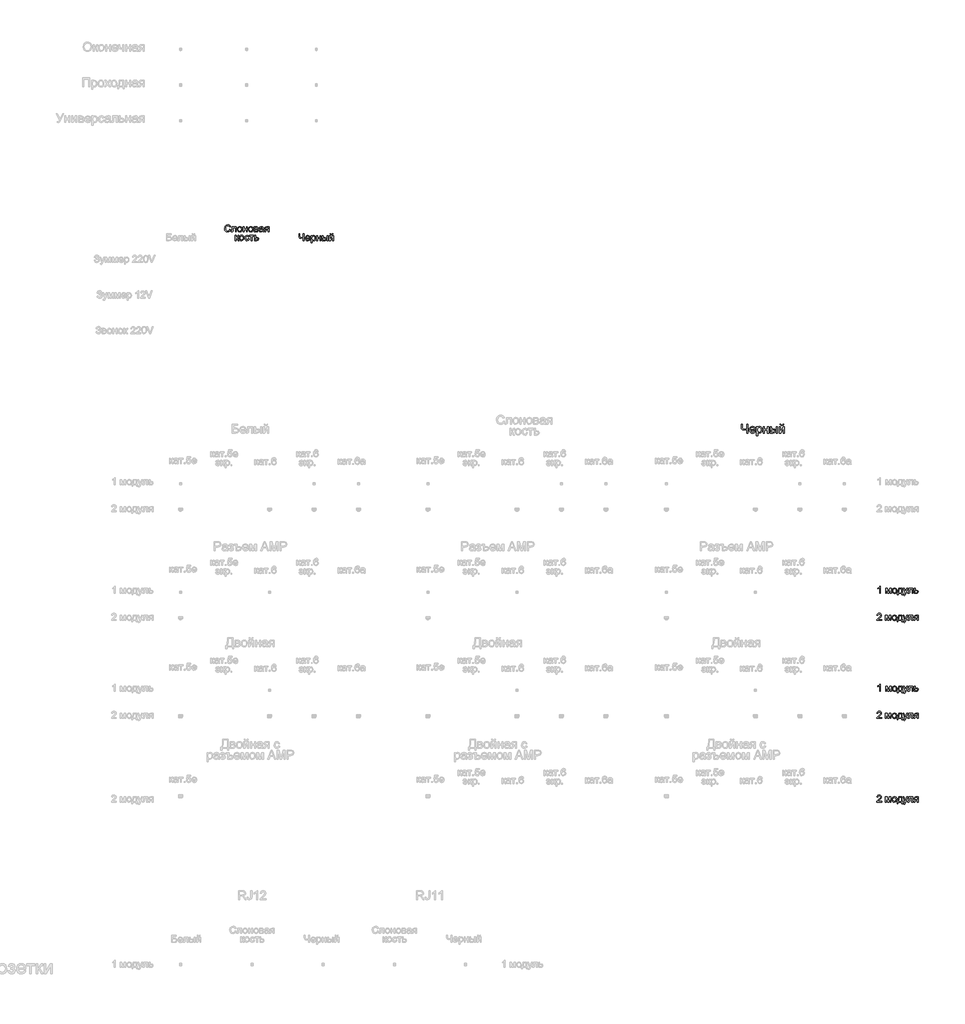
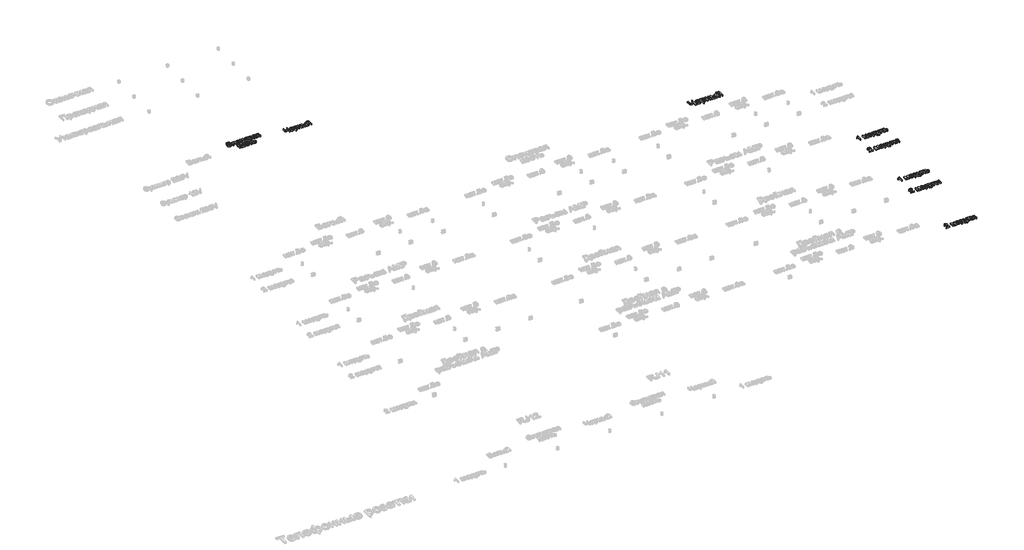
# One storey, part 34 of 47: 8 proxies.
"""IFC4 building model written with IfcOpenShell, lengths in millimetres."""

from ifc_helpers import new_model, si_unit, origin, origin_with_axes, place, context, project, spatial, polyline, outline, extrude, element, save

model = new_model("IFC4")

# Units and contexts
model_context = context("Model", 3, world=origin())
ifc_project = project(units=[si_unit("LENGTHUNIT", "METRE", prefix="MILLI")], contexts=[model_context])

# Site, building, storey
site = spatial("IfcSite", under=ifc_project)
building = spatial("IfcBuilding", under=site)
storey = spatial("IfcBuildingStorey", under=building, Name="Этаж 01", Elevation=0.0)

# Proxies
placement = place(None, origin())
element("IfcBuildingElementProxy", 1, Name="80 мм Arial", ObjectType="80 мм Arial", at=placement, inside=storey, context=model_context, shape_type="SweptSolid", body=[
    extrude(outline(polyline([(559.9006513, -17462.335375), (569.9462823, -17464.9252643), (565.3109692, -17476.6312694), (558.0367159, -17485.1832995), (548.4815942, -17490.4145814), (537.0036759, -17492.1583421), (516.0981684, -17486.8804617), (503.8354352, -17471.5961911), (499.6268652, -17450.1118826), (504.3848057, -17428.2744074), (517.9130529, -17414.1183082), (537.2195, -17409.2818862), (548.233887, -17410.846611), (557.3401926, -17415.5407852), (564.2539216, -17423.0750085), (568.6905784, -17433.1598803), (558.6449474, -17435.5535658), (550.4043907, -17423.2025409), (536.8270926, -17419.3275172), (521.1111737, -17423.6243789), (512.2329549, -17435.1611583), (509.6724962, -17450.0922622), (512.7038439, -17467.3974313), (522.1412433, -17478.4535115), (536.0030369, -17482.1127111), (551.3755992, -17477.1291363), (559.9006513, -17462.335375)])), origin_with_axes(), (0.0, 0.0, 1.0), 20.0),
    extrude(outline(polyline([(587.5261366, -17431.884556), (632.7314762, -17431.884556), (632.7314762, -17490.8437771), (622.6858451, -17490.8437771), (622.6858451, -17441.930187), (597.5717676, -17441.930187), (597.5717676, -17470.0854224), (596.8948647, -17483.0741094), (593.176804, -17488.5580036), (584.3868769, -17490.9026382), (576.2248017, -17490.3925085), (576.2248017, -17480.8570072), (580.7178671, -17480.8570072), (585.2599835, -17480.2389655), (587.074868, -17478.2769281), (587.5261366, -17469.5164316), (587.5261366, -17431.884556)])), origin_with_axes(), (0.0, 0.0, 1.0), 20.0),
    extrude(outline(polyline([(645.2885149, -17461.3935971), (647.4614713, -17447.1639215), (653.9803402, -17437.1624364), (662.0345034, -17432.2622482), (671.6779167, -17430.6288521), (682.2312249, -17432.6178674), (690.6606277, -17438.5849134), (696.1862152, -17448.0591011), (698.0280778, -17460.5695414), (694.7710958, -17478.4437013), (685.2846454, -17488.5580036), (671.6779167, -17492.1583421), (660.9970761, -17490.1766844), (652.5774835, -17484.2317114), (647.1107571, -17474.5588674), (645.2885149, -17461.3935971)]), holes=[polyline([(655.3341459, -17461.3739767), (659.9841744, -17476.9427428), (671.6779167, -17482.1127111), (683.3324183, -17476.9133122), (687.9824467, -17461.0600508), (683.3029878, -17445.8444514), (671.6779167, -17440.6744831), (659.9841744, -17445.8248311), (655.3341459, -17461.3739767)])]), origin_with_axes(), (0.0, 0.0, 1.0), 20.0),
    extrude(outline(polyline([(709.3294127, -17431.884556), (719.3750437, -17431.884556), (719.3750437, -17454.4872258), (745.7448251, -17454.4872258), (745.7448251, -17431.884556), (755.7904561, -17431.884556), (755.7904561, -17490.9026382), (745.7448251, -17490.9026382), (745.7448251, -17464.5328568), (719.3750437, -17464.5328568), (719.3750437, -17490.9026382), (709.3294127, -17490.9026382), (709.3294127, -17431.884556)])), origin_with_axes(), (0.0, 0.0, 1.0), 20.0),
    extrude(outline(polyline([(768.3474949, -17461.3935971), (770.5204512, -17447.1639215), (777.0393201, -17437.1624364), (785.0934833, -17432.2622482), (794.7368967, -17430.6288521), (805.2902048, -17432.6178674), (813.7196076, -17438.5849134), (819.2451952, -17448.0591011), (821.0870577, -17460.5695414), (817.8300758, -17478.4437013), (808.3436254, -17488.5580036), (794.7368967, -17492.1583421), (784.0560561, -17490.1766844), (775.6364635, -17484.2317114), (770.169737, -17474.5588674), (768.3474949, -17461.3935971)]), holes=[polyline([(778.3931259, -17461.3739767), (783.0431543, -17476.9427428), (794.7368967, -17482.1127111), (806.3913983, -17476.9133122), (811.0414267, -17461.0600508), (806.3619677, -17445.8444514), (794.7368967, -17440.6744831), (783.0431543, -17445.8248311), (778.3931259, -17461.3739767)])]), origin_with_axes(), (0.0, 0.0, 1.0), 20.0),
    extrude(outline(polyline([(832.3883926, -17431.884556), (854.5201734, -17431.884556), (866.6553742, -17433.2285516), (873.483264, -17438.1532652), (876.3380283, -17446.7371784), (874.6114354, -17453.7122211), (869.4120366, -17458.6859856), (876.1614449, -17464.1306392), (878.849436, -17473.5974692), (873.1006667, -17486.6450173), (857.914498, -17490.9026382), (832.3883926, -17490.9026382), (832.3883926, -17431.884556)]), holes=[polyline([(842.4340236, -17480.8570072), (854.7556179, -17480.8570072), (865.6841657, -17479.0421227), (868.803805, -17472.7734135), (867.0870224, -17467.9369915), (862.6135773, -17465.121468), (853.7745992, -17464.5328568), (842.4340236, -17464.5328568), (842.4340236, -17480.8570072)]), polyline([(842.4340236, -17454.4872258), (852.3619324, -17454.4872258), (860.5534381, -17453.9770961), (864.5363739, -17451.9365773), (866.2923973, -17448.2479471), (863.2119987, -17443.3232335), (852.6758583, -17441.930187), (842.4340236, -17441.930187), (842.4340236, -17454.4872258)])]), origin_with_axes(), (0.0, 0.0, 1.0), 20.0),
    extrude(outline(polyline([(929.0775911, -17483.368415), (919.3360759, -17490.1766844), (908.5743012, -17492.1583421), (893.9865539, -17487.3905914), (888.895067, -17475.2063398), (890.8178636, -17467.2600887), (895.8701097, -17461.491699), (902.9040134, -17458.1954763), (911.5958387, -17456.6847076), (929.01873, -17453.2315219), (929.0775911, -17450.9947994), (926.3111185, -17443.5782984), (915.2059873, -17440.6744831), (905.0426341, -17442.6070899), (900.1964019, -17449.4644103), (890.1507709, -17448.2087064), (894.4966836, -17438.3985199), (903.24737, -17432.6497506), (916.500932, -17430.6288521), (928.6753735, -17432.4143061), (935.5523142, -17436.8975613), (938.6327128, -17443.715641), (939.1232221, -17452.5055681), (939.1232221, -17465.0037458), (939.6333518, -17482.4560676), (941.6346299, -17490.9026382), (931.5889989, -17490.9026382), (929.0775911, -17483.368415)]), holes=[polyline([(929.0775911, -17463.2771529), (912.8711629, -17466.3575515), (904.2283886, -17467.9860425), (900.3141242, -17470.6347928), (898.9406981, -17474.5000063), (901.932805, -17479.9348497), (910.7129219, -17482.1127111), (920.8762752, -17479.7092154), (927.4294798, -17473.8917748), (929.01873, -17466.122107), (929.0775911, -17463.2771529)])]), origin_with_axes(), (0.0, 0.0, 1.0), 20.0),
    extrude(outline(polyline([(998.1413043, -17431.884556), (998.1413043, -17490.9026382), (988.0956733, -17490.9026382), (988.0956733, -17468.2999684), (982.6215892, -17468.2999684), (975.1658475, -17469.5752927), (968.1613743, -17478.1493957), (960.1562621, -17490.9026382), (948.5410012, -17490.9026382), (958.625873, -17474.7746915), (967.1803556, -17466.4164126), (955.4866133, -17460.3144766), (951.6802609, -17448.9346602), (956.8796598, -17436.6130659), (971.9284859, -17431.884556), (998.1413043, -17431.884556)]), holes=[polyline([(988.0956733, -17441.930187), (974.8519215, -17441.930187), (964.1293876, -17444.2552012), (961.7258919, -17449.6998548), (965.2673692, -17456.1843881), (977.8145978, -17458.2543374), (988.0956733, -17458.2543374), (988.0956733, -17441.930187)])]), origin_with_axes(), (0.0, 0.0, 1.0), 20.0),
    extrude(outline(polyline([(619.5465855, -17529.4644103), (629.5922165, -17529.4644103), (629.5922165, -17554.5784878), (636.3220044, -17552.7734135), (641.8353293, -17542.2568935), (646.4166864, -17533.182471), (650.4584832, -17530.2296048), (657.806313, -17529.4644103), (659.7291095, -17529.4644103), (659.7291095, -17539.5689024), (657.021498, -17539.5100413), (652.1164048, -17540.5695414), (648.6632191, -17547.1816072), (644.6116121, -17554.3332332), (638.9315141, -17557.8354697), (645.2688946, -17561.7448291), (651.4885528, -17569.9804807), (662.2405173, -17588.4824925), (650.8214601, -17588.4824925), (640.2853198, -17570.3728881), (634.9878191, -17562.7111325), (629.5922165, -17560.8570072), (629.5922165, -17588.4824925), (619.5465855, -17588.4824925), (619.5465855, -17529.4644103)])), origin_with_axes(), (0.0, 0.0, 1.0), 20.0),
    extrude(outline(polyline([(666.0076289, -17558.9734514), (668.1805852, -17544.7437758), (674.6994542, -17534.7422906), (682.7536173, -17529.8421025), (692.3970307, -17528.2087064), (702.9503389, -17530.1977217), (711.3797416, -17536.1647677), (716.9053292, -17545.6389553), (718.7471917, -17558.1493957), (715.4902098, -17576.0235556), (706.0037594, -17586.1378579), (692.3970307, -17589.7381964), (681.7161901, -17587.7565387), (673.2965975, -17581.8115656), (667.8298711, -17572.1387217), (666.0076289, -17558.9734514)]), holes=[polyline([(676.0532599, -17558.953831), (680.7032883, -17574.522597), (692.3970307, -17579.6925654), (704.0515323, -17574.4931665), (708.7015607, -17558.639905), (704.0221017, -17543.4243057), (692.3970307, -17538.2543374), (680.7032883, -17543.4046854), (676.0532599, -17558.953831)])]), origin_with_axes(), (0.0, 0.0, 1.0), 20.0),
    extrude(outline(polyline([(767.7196429, -17567.1355266), (777.7652739, -17568.3912305), (774.9644657, -17577.3258579), (769.7013006, -17584.0777187), (753.7695577, -17589.7381964), (743.083812, -17587.7638963), (734.7279856, -17581.8409962), (729.3348356, -17572.2294659), (727.5371189, -17559.1892755), (730.6077073, -17542.5021482), (739.9666252, -17531.7796143), (753.6322151, -17528.2087064), (768.9066755, -17533.1137997), (776.5095701, -17547.0442646), (766.4639391, -17548.2999684), (761.8041004, -17540.7755554), (753.7106966, -17538.2543374), (742.0660051, -17543.2182918), (737.5827499, -17558.9145903), (741.9679033, -17574.7580415), (753.4360113, -17579.6925654), (762.9028413, -17576.6121668), (767.7196429, -17567.1355266)])), origin_with_axes(), (0.0, 0.0, 1.0), 20.0),
    extrude(outline(polyline([(781.5323856, -17529.4644103), (829.2491329, -17529.4644103), (829.2491329, -17539.5100413), (810.4135747, -17539.5100413), (810.4135747, -17588.4824925), (800.3679437, -17588.4824925), (800.3679437, -17539.5100413), (781.5323856, -17539.5100413), (781.5323856, -17529.4644103)])), origin_with_axes(), (0.0, 0.0, 1.0), 20.0),
    extrude(outline(polyline([(838.03906, -17529.4644103), (848.084691, -17529.4644103), (848.084691, -17550.8113762), (859.6607112, -17550.8113762), (877.1228432, -17555.8440019), (881.7140105, -17561.8306682), (883.2443996, -17569.7254158), (878.0351905, -17582.9789778), (871.2637093, -17587.1066138), (861.3676836, -17588.4824925), (838.03906, -17588.4824925), (838.03906, -17529.4644103)]), holes=[polyline([(848.084691, -17578.4368615), (857.4632294, -17578.4368615), (869.5788098, -17576.3276714), (873.1987686, -17569.7450362), (870.5205877, -17563.5646187), (858.6600721, -17560.8570072), (848.084691, -17560.8570072), (848.084691, -17578.4368615)])]), origin_with_axes(), (0.0, 0.0, 1.0), 20.0),
])
element("IfcBuildingElementProxy", 2, Name="80 мм Arial", ObjectType="80 мм Arial", at=placement, inside=storey, context=model_context, shape_type="SweptSolid", body=[
    extrude(outline(polyline([(1395.5237699, -17590.9026382), (1385.4781389, -17590.9026382), (1385.4781389, -17558.7252264), (1360.5995059, -17564.5328568), (1345.9136566, -17560.5597313), (1337.3984147, -17550.4748595), (1335.2499839, -17534.4744453), (1335.2499839, -17510.5375901), (1345.2956149, -17510.5375901), (1345.2956149, -17533.1206395), (1346.5022678, -17543.9829686), (1350.1222267, -17550.3571373), (1361.7178671, -17554.4872258), (1385.4781389, -17549.503651), (1385.4781389, -17510.5375901), (1395.5237699, -17510.5375901), (1395.5237699, -17590.9026382)])), origin_with_axes(), (0.0, 0.0, 1.0), 20.0),
    extrude(outline(polyline([(1453.168426, -17573.3227839), (1463.0178533, -17574.5784878), (1453.8060882, -17587.5475544), (1436.6480719, -17592.1583421), (1424.8611328, -17590.1693268), (1415.7916153, -17584.2022808), (1410.0085104, -17574.6447066), (1408.0808087, -17561.8841064), (1410.0281307, -17548.6943106), (1415.8700968, -17538.8301681), (1424.816987, -17532.6791811), (1436.0790811, -17530.6288521), (1446.9904611, -17532.674276), (1455.7092644, -17538.8105477), (1461.4261506, -17548.6550699), (1463.3317793, -17561.8252453), (1463.2729182, -17564.5328568), (1418.1264397, -17564.5328568), (1423.9046396, -17577.5804049), (1436.8442756, -17582.1127111), (1446.6937029, -17580.0133312), (1453.168426, -17573.3227839)]), holes=[polyline([(1418.1264397, -17554.4872258), (1453.2861483, -17554.4872258), (1449.2639718, -17545.3833727), (1436.0398404, -17540.6744831), (1423.6691951, -17544.4317846), (1418.1264397, -17554.4872258)])]), origin_with_axes(), (0.0, 0.0, 1.0), 20.0),
    extrude(outline(polyline([(1473.3774103, -17613.505308), (1473.3774103, -17531.884556), (1483.4230413, -17531.884556), (1483.4230413, -17541.7339833), (1490.3686534, -17533.4051349), (1499.7471917, -17530.6288521), (1512.4808139, -17534.513686), (1520.799852, -17545.4618542), (1523.6055654, -17560.9423285), (1520.4368751, -17577.217428), (1511.2349202, -17588.3029388), (1498.5307286, -17592.1583421), (1489.7898524, -17589.578263), (1483.4230413, -17583.054489), (1483.4230413, -17613.505308), (1473.3774103, -17613.505308)]), holes=[polyline([(1483.4230413, -17561.8644861), (1487.768954, -17577.1683771), (1498.3149045, -17582.1127111), (1509.0766791, -17576.9917937), (1513.5599344, -17561.1189119), (1509.1845912, -17545.7757801), (1498.7269323, -17540.6744831), (1488.0632596, -17546.0995163), (1483.4230413, -17561.8644861)])]), origin_with_axes(), (0.0, 0.0, 1.0), 20.0),
    extrude(outline(polyline([(1534.9069003, -17531.884556), (1544.9525313, -17531.884556), (1544.9525313, -17554.4872258), (1571.3223127, -17554.4872258), (1571.3223127, -17531.884556), (1581.3679437, -17531.884556), (1581.3679437, -17590.9026382), (1571.3223127, -17590.9026382), (1571.3223127, -17564.5328568), (1544.9525313, -17564.5328568), (1544.9525313, -17590.9026382), (1534.9069003, -17590.9026382), (1534.9069003, -17531.884556)])), origin_with_axes(), (0.0, 0.0, 1.0), 20.0),
    extrude(outline(polyline([(1651.6873608, -17531.884556), (1661.7329918, -17531.884556), (1661.7329918, -17590.9026382), (1651.6873608, -17590.9026382), (1651.6873608, -17531.884556)])), origin_with_axes(), (0.0, 0.0, 1.0), 20.0),
    extrude(outline(polyline([(1596.4363902, -17531.884556), (1606.4820213, -17531.884556), (1606.4820213, -17553.2315219), (1618.9017174, -17553.2315219), (1637.5901228, -17558.2641476), (1642.5123839, -17564.2508139), (1644.1531376, -17572.1455616), (1638.6496229, -17585.3991236), (1631.5004495, -17589.5267596), (1621.0599585, -17590.9026382), (1596.4363902, -17590.9026382), (1596.4363902, -17531.884556)]), holes=[polyline([(1606.4820213, -17580.8570072), (1616.8023375, -17580.8570072), (1630.1245708, -17578.7478171), (1634.1075066, -17572.1651819), (1631.1546404, -17565.9847644), (1618.1169025, -17563.2771529), (1606.4820213, -17563.2771529), (1606.4820213, -17580.8570072)])]), origin_with_axes(), (0.0, 0.0, 1.0), 20.0),
    extrude(outline(polyline([(1676.8014384, -17531.884556), (1686.8470694, -17531.884556), (1686.8470694, -17576.8936918), (1711.5294987, -17531.884556), (1724.5181857, -17531.884556), (1724.5181857, -17590.9026382), (1714.4725547, -17590.9026382), (1714.4725547, -17546.1681876), (1689.9470883, -17590.9026382), (1676.8014384, -17590.9026382), (1676.8014384, -17531.884556)])), origin_with_axes(), (0.0, 0.0, 1.0), 20.0),
    extrude(outline(polyline([(1709.4497392, -17510.5375901), (1716.9839624, -17510.5375901), (1712.1082997, -17521.7113926), (1701.287664, -17525.6060366), (1689.5743012, -17521.7408231), (1684.3356616, -17510.5375901), (1691.8698849, -17510.5375901), (1694.6952186, -17516.1980677), (1700.3851268, -17518.0718134), (1706.6244054, -17516.2569288), (1709.4497392, -17510.5375901)])), origin_with_axes(), (0.0, 0.0, 1.0), 20.0),
])
element("IfcBuildingElementProxy", 3, Name="100 мм Arial", ObjectType="100 мм Arial", at=placement, inside=storey, context=model_context, shape_type="SweptSolid", body=[
    extrude(outline(polyline([(6381.6197653, -19750.9026382), (6369.0627265, -19750.9026382), (6369.0627265, -19710.6808734), (6337.9644352, -19717.9404114), (6319.6071236, -19712.9740045), (6308.9630712, -19700.3679148), (6306.2775327, -19680.367397), (6306.2775327, -19650.4463281), (6318.8345714, -19650.4463281), (6318.8345714, -19678.6751398), (6320.3428876, -19692.2530511), (6324.8678362, -19700.220762), (6339.3623868, -19705.3833727), (6369.0627265, -19699.1539042), (6369.0627265, -19650.4463281), (6381.6197653, -19650.4463281), (6381.6197653, -19750.9026382)])), origin_with_axes(), (0.0, 0.0, 1.0), 20.0),
    extrude(outline(polyline([(6453.6755854, -19728.9278204), (6465.9873695, -19730.4974502), (6461.5513258, -19739.7742079), (6454.4726631, -19746.7087835), (6444.9107969, -19751.0313969), (6433.0251427, -19752.4722681), (6418.2914688, -19749.9859989), (6406.954572, -19742.5271915), (6399.7256908, -19730.5802237), (6397.3160637, -19714.6294735), (6399.7502163, -19698.1422287), (6407.0526739, -19685.8120505), (6418.2362865, -19678.1233168), (6432.3139042, -19675.5604056), (6445.9531292, -19678.1171855), (6456.8516333, -19685.7875251), (6463.997741, -19698.0931778), (6466.379777, -19714.5558971), (6466.3062006, -19717.9404114), (6409.8731025, -19717.9404114), (6412.046672, -19727.3397964), (6417.0958523, -19734.2498466), (6424.3829815, -19738.4988836), (6433.2703974, -19739.9152293), (6445.5821815, -19737.2910044), (6453.6755854, -19728.9278204)]), holes=[polyline([(6409.8731025, -19705.3833727), (6453.8227382, -19705.3833727), (6448.7950176, -19694.0035563), (6441.4741659, -19689.5889724), (6432.2648533, -19688.1174444), (6416.8015467, -19692.8140712), (6411.9363074, -19698.30471), (6409.8731025, -19705.3833727)])]), origin_with_axes(), (0.0, 0.0, 1.0), 20.0),
    extrude(outline(polyline([(6478.9368157, -19779.1559754), (6478.9368157, -19677.1300355), (6491.4938545, -19677.1300355), (6491.4938545, -19689.4418196), (6500.1758696, -19679.0307591), (6511.8990425, -19675.5604056), (6527.8160702, -19680.4164479), (6538.2148679, -19694.1016582), (6541.7220096, -19713.4522511), (6537.7611468, -19733.7961254), (6526.258703, -19747.6530139), (6510.3784636, -19752.4722681), (6499.4523683, -19749.2471692), (6491.4938545, -19741.0924517), (6491.4938545, -19779.1559754), (6478.9368157, -19779.1559754)]), holes=[polyline([(6491.4938545, -19714.604948), (6492.8519522, -19725.8621371), (6496.9262453, -19733.7348118), (6502.9380502, -19738.3701249), (6510.1086835, -19739.9152293), (6517.3958126, -19738.3149426), (6523.5609017, -19733.5140826), (6527.7639535, -19725.3532337), (6529.1649708, -19713.6729803), (6527.7976761, -19702.4771049), (6523.6957918, -19694.4940656), (6517.6931839, -19689.7115997), (6510.6237182, -19688.1174444), (6503.5266614, -19689.8127672), (6497.2941273, -19694.8987358), (6492.9439227, -19703.2159346), (6491.4938545, -19714.604948)])]), origin_with_axes(), (0.0, 0.0, 1.0), 20.0),
    extrude(outline(polyline([(6555.8486782, -19677.1300355), (6568.405717, -19677.1300355), (6568.405717, -19705.3833727), (6601.3679437, -19705.3833727), (6601.3679437, -19677.1300355), (6613.9249825, -19677.1300355), (6613.9249825, -19750.9026382), (6601.3679437, -19750.9026382), (6601.3679437, -19717.9404114), (6568.405717, -19717.9404114), (6568.405717, -19750.9026382), (6555.8486782, -19750.9026382), (6555.8486782, -19677.1300355)])), origin_with_axes(), (0.0, 0.0, 1.0), 20.0),
    extrude(outline(polyline([(6632.7605406, -19677.1300355), (6645.3175794, -19677.1300355), (6645.3175794, -19703.8137428), (6660.8421996, -19703.8137428), (6674.2606954, -19705.3864384), (6684.2027063, -19710.104525), (6690.3555327, -19717.5878579), (6692.4064748, -19727.4562924), (6690.6866265, -19736.4418101), (6685.5270815, -19744.0232449), (6676.5906147, -19749.1827899), (6663.5400009, -19750.9026382), (6632.7605406, -19750.9026382), (6632.7605406, -19677.1300355)]), holes=[polyline([(6645.3175794, -19738.3455994), (6658.2179747, -19738.3455994), (6674.8707664, -19735.7091118), (6679.849436, -19727.4808179), (6676.1583533, -19719.755296), (6659.861181, -19716.3707816), (6645.3175794, -19716.3707816), (6645.3175794, -19738.3455994)])]), origin_with_axes(), (0.0, 0.0, 1.0), 20.0),
    extrude(outline(polyline([(6701.8242539, -19677.1300355), (6714.3812926, -19677.1300355), (6714.3812926, -19750.9026382), (6701.8242539, -19750.9026382), (6701.8242539, -19677.1300355)])), origin_with_axes(), (0.0, 0.0, 1.0), 20.0),
    extrude(outline(polyline([(6733.2168508, -19677.1300355), (6745.7738896, -19677.1300355), (6745.7738896, -19733.3914552), (6776.6269262, -19677.1300355), (6792.8627849, -19677.1300355), (6792.8627849, -19750.9026382), (6780.3057462, -19750.9026382), (6780.3057462, -19694.984575), (6749.6489132, -19750.9026382), (6733.2168508, -19750.9026382), (6733.2168508, -19677.1300355)])), origin_with_axes(), (0.0, 0.0, 1.0), 20.0),
    extrude(outline(polyline([(6774.0272268, -19650.4463281), (6783.4450059, -19650.4463281), (6777.3504275, -19664.4135812), (6763.8246328, -19669.2818862), (6749.1829294, -19664.4503694), (6742.6346299, -19650.4463281), (6752.052409, -19650.4463281), (6755.5840761, -19657.5219251), (6762.6964613, -19659.8641071), (6770.4955596, -19657.5955015), (6774.0272268, -19650.4463281)])), origin_with_axes(), (0.0, 0.0, 1.0), 20.0),
])
element("IfcBuildingElementProxy", 4, Name="80 мм Arial", ObjectType="80 мм Arial", at=placement, inside=storey, context=model_context, shape_type="SweptSolid", body=[
    extrude(outline(polyline([(7871.0563135, -21551.4329989), (7861.0106825, -21551.4329989), (7861.0106825, -21488.804768), (7851.4948016, -21495.5836069), (7840.9194205, -21500.6554733), (7840.9194205, -21491.1592128), (7855.6445105, -21481.7610541), (7864.5815904, -21471.0679507), (7871.0563135, -21471.0679507), (7871.0563135, -21551.4329989)])), origin_with_axes(), (0.0, 0.0, 1.0), 20.0),
    extrude(outline(polyline([(7928.8186919, -21492.4149166), (7946.1042406, -21492.4149166), (7959.4264739, -21539.660775), (7973.788587, -21492.4149166), (7990.3481818, -21492.4149166), (7990.3481818, -21551.4329989), (7980.3025508, -21551.4329989), (7980.3025508, -21503.9124553), (7965.8619562, -21551.4329989), (7952.6770655, -21551.4329989), (7938.8643229, -21501.636492), (7938.8643229, -21551.4329989), (7928.8186919, -21551.4329989), (7928.8186919, -21492.4149166)])), origin_with_axes(), (0.0, 0.0, 1.0), 20.0),
    extrude(outline(polyline([(8002.9052206, -21521.9239578), (8005.0781769, -21507.6942822), (8011.5970459, -21497.692797), (8019.651209, -21492.7926088), (8029.2946224, -21491.1592128), (8039.8479306, -21493.1482281), (8048.2773333, -21499.1152741), (8053.8029209, -21508.5894617), (8055.6447834, -21521.0999021), (8052.3878015, -21538.974062), (8042.9013511, -21549.0883643), (8029.2946224, -21552.6887027), (8018.6137818, -21550.7070451), (8010.1941892, -21544.762072), (8004.7274628, -21535.0892281), (8002.9052206, -21521.9239578)]), holes=[polyline([(8012.9508516, -21521.9043374), (8017.60088, -21537.4731034), (8029.2946224, -21542.6430717), (8040.949124, -21537.4436729), (8045.5991524, -21521.5904114), (8040.9196934, -21506.3748121), (8029.2946224, -21501.2048438), (8017.60088, -21506.3551917), (8012.9508516, -21521.9043374)])]), origin_with_axes(), (0.0, 0.0, 1.0), 20.0),
    extrude(outline(polyline([(8075.7360455, -21492.4149166), (8113.4071618, -21492.4149166), (8113.4071618, -21541.3873678), (8120.941385, -21541.3873678), (8120.941385, -21567.7571493), (8110.895754, -21567.7571493), (8110.895754, -21551.4329989), (8069.4575261, -21551.4329989), (8069.4575261, -21567.7571493), (8059.4118951, -21567.7571493), (8059.4118951, -21541.3873678), (8065.6904145, -21541.3873678), (8073.450272, -21522.2280735), (8075.7360455, -21492.4149166)]), holes=[polyline([(8084.5259726, -21502.4605477), (8082.1715278, -21525.3477129), (8076.9917493, -21541.3873678), (8103.3615308, -21541.3873678), (8103.3615308, -21502.4605477), (8084.5259726, -21502.4605477)])]), origin_with_axes(), (0.0, 0.0, 1.0), 20.0),
    extrude(outline(polyline([(8132.2427199, -21574.0356686), (8130.987016, -21564.3628247), (8136.088313, -21565.2457415), (8140.8560637, -21564.1371904), (8143.7794993, -21561.0469817), (8146.5263515, -21553.650101), (8147.3111664, -21551.2171748), (8125.9642005, -21492.4149166), (8136.559202, -21492.4149166), (8147.8801573, -21525.1809397), (8151.8238523, -21538.2873489), (8155.7675472, -21526.7113288), (8167.4024285, -21492.4149166), (8177.9189484, -21492.4149166), (8157.3764178, -21552.8456657), (8152.0396764, -21565.9520749), (8146.2124256, -21573.0350296), (8138.3838967, -21575.2913725), (8132.2427199, -21574.0356686)])), origin_with_axes(), (0.0, 0.0, 1.0), 20.0),
    extrude(outline(polyline([(8191.2608021, -21492.4149166), (8236.4661417, -21492.4149166), (8236.4661417, -21551.3741377), (8226.4205107, -21551.3741377), (8226.4205107, -21502.4605477), (8201.3064332, -21502.4605477), (8201.3064332, -21530.615783), (8200.6295303, -21543.60447), (8196.9114696, -21549.0883643), (8188.1215424, -21551.4329989), (8179.9594672, -21550.9228692), (8179.9594672, -21541.3873678), (8184.4525327, -21541.3873678), (8188.994649, -21540.7693261), (8190.8095336, -21538.8072888), (8191.2608021, -21530.0467922), (8191.2608021, -21492.4149166)])), origin_with_axes(), (0.0, 0.0, 1.0), 20.0),
    extrude(outline(polyline([(8251.5345882, -21492.4149166), (8261.5802192, -21492.4149166), (8261.5802192, -21513.7618826), (8273.1562394, -21513.7618826), (8290.6183714, -21518.7945083), (8295.2095387, -21524.7811746), (8296.7399278, -21532.6759222), (8291.5307187, -21545.9294842), (8284.7592375, -21550.0571202), (8274.8632118, -21551.4329989), (8251.5345882, -21551.4329989), (8251.5345882, -21492.4149166)]), holes=[polyline([(8261.5802192, -21541.3873678), (8270.9587576, -21541.3873678), (8283.0743379, -21539.2781777), (8286.6942968, -21532.6955426), (8284.0161159, -21526.5151251), (8272.1556003, -21523.8075136), (8261.5802192, -21523.8075136), (8261.5802192, -21541.3873678)])]), origin_with_axes(), (0.0, 0.0, 1.0), 20.0),
])
element("IfcBuildingElementProxy", 5, Name="80 мм Arial", ObjectType="80 мм Arial", at=placement, inside=storey, context=model_context, shape_type="SweptSolid", body=[
    extrude(outline(polyline([(7883.6133523, -21845.1206602), (7883.6133523, -21855.1662912), (7830.8737895, -21855.1662912), (7831.95291, -21848.2402995), (7838.054846, -21837.5766267), (7850.6315052, -21825.9319353), (7867.975915, -21809.1957571), (7872.3120174, -21797.8159407), (7868.2211696, -21788.6041755), (7857.5378765, -21784.8468741), (7846.4033148, -21788.5158838), (7842.1751244, -21798.6596167), (7832.1294934, -21797.4039128), (7834.5648722, -21787.6869231), (7839.8304898, -21780.5892531), (7847.651661, -21776.2482456), (7857.7537006, -21774.801243), (7867.9293166, -21776.4101136), (7875.7357725, -21781.2367254), (7880.7021794, -21788.4472125), (7882.3576484, -21797.2077091), (7880.5721945, -21806.7334002), (7874.6370316, -21816.5828275), (7860.245488, -21830.3465192), (7848.6890882, -21840.009553), (7844.156782, -21845.1206602), (7883.6133523, -21845.1206602)])), origin_with_axes(), (0.0, 0.0, 1.0), 20.0),
    extrude(outline(polyline([(7927.562988, -21796.148209), (7944.8485367, -21796.148209), (7958.17077, -21843.3940673), (7972.5328831, -21796.148209), (7989.092478, -21796.148209), (7989.092478, -21855.1662912), (7979.0468469, -21855.1662912), (7979.0468469, -21807.6457476), (7964.6062524, -21855.1662912), (7951.4213617, -21855.1662912), (7937.608619, -21805.3697843), (7937.608619, -21855.1662912), (7927.562988, -21855.1662912), (7927.562988, -21796.148209)])), origin_with_axes(), (0.0, 0.0, 1.0), 20.0),
    extrude(outline(polyline([(8001.6495167, -21825.6572501), (8003.822473, -21811.4275745), (8010.341342, -21801.4260893), (8018.3955052, -21796.5259011), (8028.0389185, -21794.8925051), (8038.5922267, -21796.8815204), (8047.0216295, -21802.8485664), (8052.547217, -21812.322754), (8054.3890796, -21824.8331944), (8051.1320976, -21842.7073543), (8041.6456472, -21852.8216566), (8028.0389185, -21856.421995), (8017.3580779, -21854.4403374), (8008.9384853, -21848.4953643), (8003.4717589, -21838.8225204), (8001.6495167, -21825.6572501)]), holes=[polyline([(8011.6951477, -21825.6376297), (8016.3451762, -21841.2063957), (8028.0389185, -21846.376364), (8039.6934201, -21841.1769652), (8044.3434485, -21825.3237037), (8039.6639896, -21810.1081044), (8028.0389185, -21804.9381361), (8016.3451762, -21810.088484), (8011.6951477, -21825.6376297)])]), origin_with_axes(), (0.0, 0.0, 1.0), 20.0),
    extrude(outline(polyline([(8074.4803416, -21796.148209), (8112.1514579, -21796.148209), (8112.1514579, -21845.1206602), (8119.6856812, -21845.1206602), (8119.6856812, -21871.4904416), (8109.6400501, -21871.4904416), (8109.6400501, -21855.1662912), (8068.2018222, -21855.1662912), (8068.2018222, -21871.4904416), (8058.1561912, -21871.4904416), (8058.1561912, -21845.1206602), (8064.4347106, -21845.1206602), (8072.1945681, -21825.9613658), (8074.4803416, -21796.148209)]), holes=[polyline([(8083.2702687, -21806.19384), (8080.915824, -21829.0810052), (8075.7360455, -21845.1206602), (8102.1058269, -21845.1206602), (8102.1058269, -21806.19384), (8083.2702687, -21806.19384)])]), origin_with_axes(), (0.0, 0.0, 1.0), 20.0),
    extrude(outline(polyline([(8130.987016, -21877.768961), (8129.7313122, -21868.096117), (8134.8326092, -21868.9790338), (8139.6003598, -21867.8704827), (8142.5237954, -21864.780274), (8145.2706476, -21857.3833933), (8146.0554626, -21854.9504671), (8124.7084967, -21796.148209), (8135.3034981, -21796.148209), (8146.6244534, -21828.914232), (8150.5681484, -21842.0206412), (8154.5118434, -21830.4446211), (8166.1467246, -21796.148209), (8176.6632446, -21796.148209), (8156.120714, -21856.578958), (8150.7839725, -21869.6853672), (8144.9567217, -21876.7683219), (8137.1281928, -21879.0246648), (8130.987016, -21877.768961)])), origin_with_axes(), (0.0, 0.0, 1.0), 20.0),
    extrude(outline(polyline([(8190.0050983, -21796.148209), (8235.2104378, -21796.148209), (8235.2104378, -21855.1074301), (8225.1648068, -21855.1074301), (8225.1648068, -21806.19384), (8200.0507293, -21806.19384), (8200.0507293, -21834.3490753), (8199.3738264, -21847.3377623), (8195.6557657, -21852.8216566), (8186.8658386, -21855.1662912), (8178.7037634, -21854.6561615), (8178.7037634, -21845.1206602), (8183.1968288, -21845.1206602), (8187.7389452, -21844.5026184), (8189.5538297, -21842.5405811), (8190.0050983, -21833.7800845), (8190.0050983, -21796.148209)])), origin_with_axes(), (0.0, 0.0, 1.0), 20.0),
    extrude(outline(polyline([(8295.4842239, -21796.148209), (8295.4842239, -21855.1662912), (8285.4385929, -21855.1662912), (8285.4385929, -21832.5636214), (8279.9645088, -21832.5636214), (8272.508767, -21833.8389456), (8265.5042939, -21842.4130487), (8257.4991816, -21855.1662912), (8245.8839208, -21855.1662912), (8255.9687925, -21839.0383445), (8264.5232752, -21830.6800656), (8252.8295329, -21824.5781295), (8249.0231805, -21813.1983132), (8254.2225793, -21800.8767189), (8269.2714055, -21796.148209), (8295.4842239, -21796.148209)]), holes=[polyline([(8285.4385929, -21806.19384), (8272.1948411, -21806.19384), (8261.4723072, -21808.5188542), (8259.0688115, -21813.9635077), (8262.6102888, -21820.448041), (8275.1575174, -21822.5179904), (8285.4385929, -21822.5179904), (8285.4385929, -21806.19384)])]), origin_with_axes(), (0.0, 0.0, 1.0), 20.0),
])
element("IfcBuildingElementProxy", 6, Name="80 мм Arial", ObjectType="80 мм Arial", at=placement, inside=storey, context=model_context, shape_type="SweptSolid", body=[
    extrude(outline(polyline([(7871.0563135, -22651.4329989), (7861.0106825, -22651.4329989), (7861.0106825, -22588.804768), (7851.4948016, -22595.5836069), (7840.9194205, -22600.6554733), (7840.9194205, -22591.1592128), (7855.6445105, -22581.7610541), (7864.5815904, -22571.0679507), (7871.0563135, -22571.0679507), (7871.0563135, -22651.4329989)])), origin_with_axes(), (0.0, 0.0, 1.0), 20.0),
    extrude(outline(polyline([(7928.8186919, -22592.4149166), (7946.1042406, -22592.4149166), (7959.4264739, -22639.660775), (7973.788587, -22592.4149166), (7990.3481818, -22592.4149166), (7990.3481818, -22651.4329989), (7980.3025508, -22651.4329989), (7980.3025508, -22603.9124553), (7965.8619562, -22651.4329989), (7952.6770655, -22651.4329989), (7938.8643229, -22601.636492), (7938.8643229, -22651.4329989), (7928.8186919, -22651.4329989), (7928.8186919, -22592.4149166)])), origin_with_axes(), (0.0, 0.0, 1.0), 20.0),
    extrude(outline(polyline([(8002.9052206, -22621.9239578), (8005.0781769, -22607.6942822), (8011.5970459, -22597.692797), (8019.651209, -22592.7926088), (8029.2946224, -22591.1592128), (8039.8479306, -22593.1482281), (8048.2773333, -22599.1152741), (8053.8029209, -22608.5894617), (8055.6447834, -22621.0999021), (8052.3878015, -22638.974062), (8042.9013511, -22649.0883643), (8029.2946224, -22652.6887027), (8018.6137818, -22650.7070451), (8010.1941892, -22644.762072), (8004.7274628, -22635.0892281), (8002.9052206, -22621.9239578)]), holes=[polyline([(8012.9508516, -22621.9043374), (8017.60088, -22637.4731034), (8029.2946224, -22642.6430717), (8040.949124, -22637.4436729), (8045.5991524, -22621.5904114), (8040.9196934, -22606.3748121), (8029.2946224, -22601.2048438), (8017.60088, -22606.3551917), (8012.9508516, -22621.9043374)])]), origin_with_axes(), (0.0, 0.0, 1.0), 20.0),
    extrude(outline(polyline([(8075.7360455, -22592.4149166), (8113.4071618, -22592.4149166), (8113.4071618, -22641.3873678), (8120.941385, -22641.3873678), (8120.941385, -22667.7571493), (8110.895754, -22667.7571493), (8110.895754, -22651.4329989), (8069.4575261, -22651.4329989), (8069.4575261, -22667.7571493), (8059.4118951, -22667.7571493), (8059.4118951, -22641.3873678), (8065.6904145, -22641.3873678), (8073.450272, -22622.2280735), (8075.7360455, -22592.4149166)]), holes=[polyline([(8084.5259726, -22602.4605477), (8082.1715278, -22625.3477129), (8076.9917493, -22641.3873678), (8103.3615308, -22641.3873678), (8103.3615308, -22602.4605477), (8084.5259726, -22602.4605477)])]), origin_with_axes(), (0.0, 0.0, 1.0), 20.0),
    extrude(outline(polyline([(8132.2427199, -22674.0356686), (8130.987016, -22664.3628247), (8136.088313, -22665.2457415), (8140.8560637, -22664.1371904), (8143.7794993, -22661.0469817), (8146.5263515, -22653.650101), (8147.3111664, -22651.2171748), (8125.9642005, -22592.4149166), (8136.559202, -22592.4149166), (8147.8801573, -22625.1809397), (8151.8238523, -22638.2873489), (8155.7675472, -22626.7113288), (8167.4024285, -22592.4149166), (8177.9189484, -22592.4149166), (8157.3764178, -22652.8456657), (8152.0396764, -22665.9520749), (8146.2124256, -22673.0350296), (8138.3838967, -22675.2913725), (8132.2427199, -22674.0356686)])), origin_with_axes(), (0.0, 0.0, 1.0), 20.0),
    extrude(outline(polyline([(8191.2608021, -22592.4149166), (8236.4661417, -22592.4149166), (8236.4661417, -22651.3741377), (8226.4205107, -22651.3741377), (8226.4205107, -22602.4605477), (8201.3064332, -22602.4605477), (8201.3064332, -22630.615783), (8200.6295303, -22643.60447), (8196.9114696, -22649.0883643), (8188.1215424, -22651.4329989), (8179.9594672, -22650.9228692), (8179.9594672, -22641.3873678), (8184.4525327, -22641.3873678), (8188.994649, -22640.7693261), (8190.8095336, -22638.8072888), (8191.2608021, -22630.0467922), (8191.2608021, -22592.4149166)])), origin_with_axes(), (0.0, 0.0, 1.0), 20.0),
    extrude(outline(polyline([(8251.5345882, -22592.4149166), (8261.5802192, -22592.4149166), (8261.5802192, -22613.7618826), (8273.1562394, -22613.7618826), (8290.6183714, -22618.7945083), (8295.2095387, -22624.7811746), (8296.7399278, -22632.6759222), (8291.5307187, -22645.9294842), (8284.7592375, -22650.0571202), (8274.8632118, -22651.4329989), (8251.5345882, -22651.4329989), (8251.5345882, -22592.4149166)]), holes=[polyline([(8261.5802192, -22641.3873678), (8270.9587576, -22641.3873678), (8283.0743379, -22639.2781777), (8286.6942968, -22632.6955426), (8284.0161159, -22626.5151251), (8272.1556003, -22623.8075136), (8261.5802192, -22623.8075136), (8261.5802192, -22641.3873678)])]), origin_with_axes(), (0.0, 0.0, 1.0), 20.0),
])
element("IfcBuildingElementProxy", 7, Name="80 мм Arial", ObjectType="80 мм Arial", at=placement, inside=storey, context=model_context, shape_type="SweptSolid", body=[
    extrude(outline(polyline([(7883.6133523, -22945.1206602), (7883.6133523, -22955.1662912), (7830.8737895, -22955.1662912), (7831.95291, -22948.2402995), (7838.054846, -22937.5766267), (7850.6315052, -22925.9319353), (7867.975915, -22909.1957571), (7872.3120174, -22897.8159407), (7868.2211696, -22888.6041755), (7857.5378765, -22884.8468741), (7846.4033148, -22888.5158838), (7842.1751244, -22898.6596167), (7832.1294934, -22897.4039128), (7834.5648722, -22887.6869231), (7839.8304898, -22880.5892531), (7847.651661, -22876.2482456), (7857.7537006, -22874.801243), (7867.9293166, -22876.4101136), (7875.7357725, -22881.2367254), (7880.7021794, -22888.4472125), (7882.3576484, -22897.2077091), (7880.5721945, -22906.7334002), (7874.6370316, -22916.5828275), (7860.245488, -22930.3465192), (7848.6890882, -22940.009553), (7844.156782, -22945.1206602), (7883.6133523, -22945.1206602)])), origin_with_axes(), (0.0, 0.0, 1.0), 20.0),
    extrude(outline(polyline([(7927.562988, -22896.148209), (7944.8485367, -22896.148209), (7958.17077, -22943.3940673), (7972.5328831, -22896.148209), (7989.092478, -22896.148209), (7989.092478, -22955.1662912), (7979.0468469, -22955.1662912), (7979.0468469, -22907.6457476), (7964.6062524, -22955.1662912), (7951.4213617, -22955.1662912), (7937.608619, -22905.3697843), (7937.608619, -22955.1662912), (7927.562988, -22955.1662912), (7927.562988, -22896.148209)])), origin_with_axes(), (0.0, 0.0, 1.0), 20.0),
    extrude(outline(polyline([(8001.6495167, -22925.6572501), (8003.822473, -22911.4275745), (8010.341342, -22901.4260893), (8018.3955052, -22896.5259011), (8028.0389185, -22894.8925051), (8038.5922267, -22896.8815204), (8047.0216295, -22902.8485664), (8052.547217, -22912.322754), (8054.3890796, -22924.8331944), (8051.1320976, -22942.7073543), (8041.6456472, -22952.8216566), (8028.0389185, -22956.421995), (8017.3580779, -22954.4403374), (8008.9384853, -22948.4953643), (8003.4717589, -22938.8225204), (8001.6495167, -22925.6572501)]), holes=[polyline([(8011.6951477, -22925.6376297), (8016.3451762, -22941.2063957), (8028.0389185, -22946.376364), (8039.6934201, -22941.1769652), (8044.3434485, -22925.3237037), (8039.6639896, -22910.1081044), (8028.0389185, -22904.9381361), (8016.3451762, -22910.088484), (8011.6951477, -22925.6376297)])]), origin_with_axes(), (0.0, 0.0, 1.0), 20.0),
    extrude(outline(polyline([(8074.4803416, -22896.148209), (8112.1514579, -22896.148209), (8112.1514579, -22945.1206602), (8119.6856812, -22945.1206602), (8119.6856812, -22971.4904416), (8109.6400501, -22971.4904416), (8109.6400501, -22955.1662912), (8068.2018222, -22955.1662912), (8068.2018222, -22971.4904416), (8058.1561912, -22971.4904416), (8058.1561912, -22945.1206602), (8064.4347106, -22945.1206602), (8072.1945681, -22925.9613658), (8074.4803416, -22896.148209)]), holes=[polyline([(8083.2702687, -22906.19384), (8080.915824, -22929.0810052), (8075.7360455, -22945.1206602), (8102.1058269, -22945.1206602), (8102.1058269, -22906.19384), (8083.2702687, -22906.19384)])]), origin_with_axes(), (0.0, 0.0, 1.0), 20.0),
    extrude(outline(polyline([(8130.987016, -22977.768961), (8129.7313122, -22968.096117), (8134.8326092, -22968.9790338), (8139.6003598, -22967.8704827), (8142.5237954, -22964.780274), (8145.2706476, -22957.3833933), (8146.0554626, -22954.9504671), (8124.7084967, -22896.148209), (8135.3034981, -22896.148209), (8146.6244534, -22928.914232), (8150.5681484, -22942.0206412), (8154.5118434, -22930.4446211), (8166.1467246, -22896.148209), (8176.6632446, -22896.148209), (8156.120714, -22956.578958), (8150.7839725, -22969.6853672), (8144.9567217, -22976.7683219), (8137.1281928, -22979.0246648), (8130.987016, -22977.768961)])), origin_with_axes(), (0.0, 0.0, 1.0), 20.0),
    extrude(outline(polyline([(8190.0050983, -22896.148209), (8235.2104378, -22896.148209), (8235.2104378, -22955.1074301), (8225.1648068, -22955.1074301), (8225.1648068, -22906.19384), (8200.0507293, -22906.19384), (8200.0507293, -22934.3490753), (8199.3738264, -22947.3377623), (8195.6557657, -22952.8216566), (8186.8658386, -22955.1662912), (8178.7037634, -22954.6561615), (8178.7037634, -22945.1206602), (8183.1968288, -22945.1206602), (8187.7389452, -22944.5026184), (8189.5538297, -22942.5405811), (8190.0050983, -22933.7800845), (8190.0050983, -22896.148209)])), origin_with_axes(), (0.0, 0.0, 1.0), 20.0),
    extrude(outline(polyline([(8295.4842239, -22896.148209), (8295.4842239, -22955.1662912), (8285.4385929, -22955.1662912), (8285.4385929, -22932.5636214), (8279.9645088, -22932.5636214), (8272.508767, -22933.8389456), (8265.5042939, -22942.4130487), (8257.4991816, -22955.1662912), (8245.8839208, -22955.1662912), (8255.9687925, -22939.0383445), (8264.5232752, -22930.6800656), (8252.8295329, -22924.5781295), (8249.0231805, -22913.1983132), (8254.2225793, -22900.8767189), (8269.2714055, -22896.148209), (8295.4842239, -22896.148209)]), holes=[polyline([(8285.4385929, -22906.19384), (8272.1948411, -22906.19384), (8261.4723072, -22908.5188542), (8259.0688115, -22913.9635077), (8262.6102888, -22920.448041), (8275.1575174, -22922.5179904), (8285.4385929, -22922.5179904), (8285.4385929, -22906.19384)])]), origin_with_axes(), (0.0, 0.0, 1.0), 20.0),
])
element("IfcBuildingElementProxy", 8, Name="80 мм Arial", ObjectType="80 мм Arial", at=placement, inside=storey, context=model_context, shape_type="SweptSolid", body=[
    extrude(outline(polyline([(7883.6133523, -23885.1206602), (7883.6133523, -23895.1662912), (7830.8737895, -23895.1662912), (7831.95291, -23888.2402995), (7838.054846, -23877.5766267), (7850.6315052, -23865.9319353), (7867.975915, -23849.1957571), (7872.3120174, -23837.8159407), (7868.2211696, -23828.6041755), (7857.5378765, -23824.8468741), (7846.4033148, -23828.5158838), (7842.1751244, -23838.6596167), (7832.1294934, -23837.4039128), (7834.5648722, -23827.6869231), (7839.8304898, -23820.5892531), (7847.651661, -23816.2482456), (7857.7537006, -23814.801243), (7867.9293166, -23816.4101136), (7875.7357725, -23821.2367254), (7880.7021794, -23828.4472125), (7882.3576484, -23837.2077091), (7880.5721945, -23846.7334002), (7874.6370316, -23856.5828275), (7860.245488, -23870.3465192), (7848.6890882, -23880.009553), (7844.156782, -23885.1206602), (7883.6133523, -23885.1206602)])), origin_with_axes(), (0.0, 0.0, 1.0), 20.0),
    extrude(outline(polyline([(7927.562988, -23836.148209), (7944.8485367, -23836.148209), (7958.17077, -23883.3940673), (7972.5328831, -23836.148209), (7989.092478, -23836.148209), (7989.092478, -23895.1662912), (7979.0468469, -23895.1662912), (7979.0468469, -23847.6457476), (7964.6062524, -23895.1662912), (7951.4213617, -23895.1662912), (7937.608619, -23845.3697843), (7937.608619, -23895.1662912), (7927.562988, -23895.1662912), (7927.562988, -23836.148209)])), origin_with_axes(), (0.0, 0.0, 1.0), 20.0),
    extrude(outline(polyline([(8001.6495167, -23865.6572501), (8003.822473, -23851.4275745), (8010.341342, -23841.4260893), (8018.3955052, -23836.5259011), (8028.0389185, -23834.8925051), (8038.5922267, -23836.8815204), (8047.0216295, -23842.8485664), (8052.547217, -23852.322754), (8054.3890796, -23864.8331944), (8051.1320976, -23882.7073543), (8041.6456472, -23892.8216566), (8028.0389185, -23896.421995), (8017.3580779, -23894.4403374), (8008.9384853, -23888.4953643), (8003.4717589, -23878.8225204), (8001.6495167, -23865.6572501)]), holes=[polyline([(8011.6951477, -23865.6376297), (8016.3451762, -23881.2063957), (8028.0389185, -23886.376364), (8039.6934201, -23881.1769652), (8044.3434485, -23865.3237037), (8039.6639896, -23850.1081044), (8028.0389185, -23844.9381361), (8016.3451762, -23850.088484), (8011.6951477, -23865.6376297)])]), origin_with_axes(), (0.0, 0.0, 1.0), 20.0),
    extrude(outline(polyline([(8074.4803416, -23836.148209), (8112.1514579, -23836.148209), (8112.1514579, -23885.1206602), (8119.6856812, -23885.1206602), (8119.6856812, -23911.4904416), (8109.6400501, -23911.4904416), (8109.6400501, -23895.1662912), (8068.2018222, -23895.1662912), (8068.2018222, -23911.4904416), (8058.1561912, -23911.4904416), (8058.1561912, -23885.1206602), (8064.4347106, -23885.1206602), (8072.1945681, -23865.9613658), (8074.4803416, -23836.148209)]), holes=[polyline([(8083.2702687, -23846.19384), (8080.915824, -23869.0810052), (8075.7360455, -23885.1206602), (8102.1058269, -23885.1206602), (8102.1058269, -23846.19384), (8083.2702687, -23846.19384)])]), origin_with_axes(), (0.0, 0.0, 1.0), 20.0),
    extrude(outline(polyline([(8130.987016, -23917.768961), (8129.7313122, -23908.096117), (8134.8326092, -23908.9790338), (8139.6003598, -23907.8704827), (8142.5237954, -23904.780274), (8145.2706476, -23897.3833933), (8146.0554626, -23894.9504671), (8124.7084967, -23836.148209), (8135.3034981, -23836.148209), (8146.6244534, -23868.914232), (8150.5681484, -23882.0206412), (8154.5118434, -23870.4446211), (8166.1467246, -23836.148209), (8176.6632446, -23836.148209), (8156.120714, -23896.578958), (8150.7839725, -23909.6853672), (8144.9567217, -23916.7683219), (8137.1281928, -23919.0246648), (8130.987016, -23917.768961)])), origin_with_axes(), (0.0, 0.0, 1.0), 20.0),
    extrude(outline(polyline([(8190.0050983, -23836.148209), (8235.2104378, -23836.148209), (8235.2104378, -23895.1074301), (8225.1648068, -23895.1074301), (8225.1648068, -23846.19384), (8200.0507293, -23846.19384), (8200.0507293, -23874.3490753), (8199.3738264, -23887.3377623), (8195.6557657, -23892.8216566), (8186.8658386, -23895.1662912), (8178.7037634, -23894.6561615), (8178.7037634, -23885.1206602), (8183.1968288, -23885.1206602), (8187.7389452, -23884.5026184), (8189.5538297, -23882.5405811), (8190.0050983, -23873.7800845), (8190.0050983, -23836.148209)])), origin_with_axes(), (0.0, 0.0, 1.0), 20.0),
    extrude(outline(polyline([(8295.4842239, -23836.148209), (8295.4842239, -23895.1662912), (8285.4385929, -23895.1662912), (8285.4385929, -23872.5636214), (8279.9645088, -23872.5636214), (8272.508767, -23873.8389456), (8265.5042939, -23882.4130487), (8257.4991816, -23895.1662912), (8245.8839208, -23895.1662912), (8255.9687925, -23879.0383445), (8264.5232752, -23870.6800656), (8252.8295329, -23864.5781295), (8249.0231805, -23853.1983132), (8254.2225793, -23840.8767189), (8269.2714055, -23836.148209), (8295.4842239, -23836.148209)]), holes=[polyline([(8285.4385929, -23846.19384), (8272.1948411, -23846.19384), (8261.4723072, -23848.5188542), (8259.0688115, -23853.9635077), (8262.6102888, -23860.448041), (8275.1575174, -23862.5179904), (8285.4385929, -23862.5179904), (8285.4385929, -23846.19384)])]), origin_with_axes(), (0.0, 0.0, 1.0), 20.0),
])

save(model, "model.ifc")
